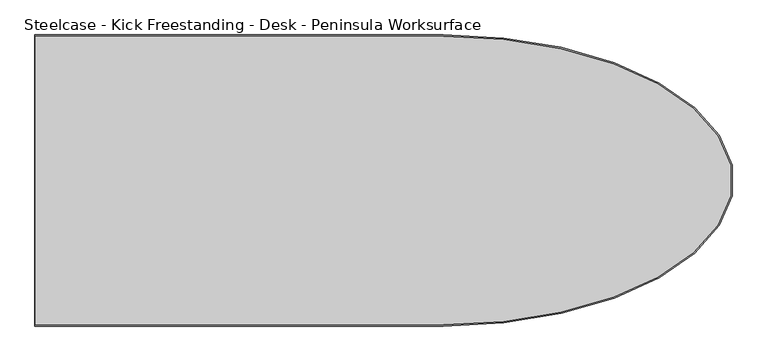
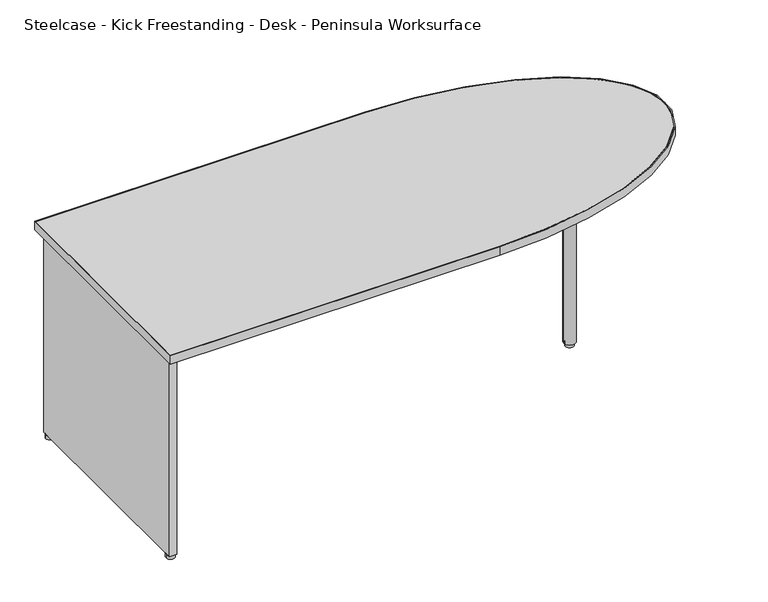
"""IFC4 building model written with IfcOpenShell, lengths in millimetres: furniture geometry, Steelcase - Kick Freestanding - Desk - Peninsula Worksurface : 30D x 72W."""

from ifc_helpers import new_model, si_unit, point, frame, frame_2d, origin, origin_with_axes, place, context, project, spatial, polyline, circle_curve, ellipse_curve, trimmed, segment, composite_curve, outline, extrude, source, transform, mapped, element, save
from ifc_brep_helpers import plane_surface, extruded_surface, advanced_brep


def steelcase_kick_freestanding_desk_peninsula_worksurface_1232d007(model_context):
    return source(origin(), model_context, "Body", "SolidModel", [
        advanced_brep(
        [(2163.8594425, -1308.8145152, 723.9), (3233.0978111, -1308.8145152, 723.9), (3233.0978111, -546.8145152, 723.9), (2163.8594425, -546.8145152, 723.9), (3233.0978111, -549.7863152, 723.9), (3233.0978111, -1305.8427489, 723.9), (2164.8500425, -1305.8427489, 723.9), (2164.8500425, -549.7863152, 723.9), (2163.8594425, -1308.8145152, 694.944), (2163.8594425, -546.8145152, 694.944), (3233.0978111, -546.8145152, 694.944), (3233.0978111, -1308.8145152, 694.944), (3233.0978111, -549.7863152, 694.944), (2164.8500425, -549.7863152, 694.944), (2164.8500425, -1305.8427489, 694.944), (3233.0978111, -1305.8427489, 694.944)],
        [
            (0, 1),
            (1, 2, ellipse_curve(frame((3233.0978111, -927.8145152, 723.9), z_axis=(0.0, 0.0, 1.0), x_axis=(-1.0, 0.0, 0.0)), 759.727071, 381.0)),
            (2, 3),
            (3, 0),
            (4, 5, ellipse_curve(frame((3233.0978111, -927.8145321, 723.9), z_axis=(0.0, 0.0, -1.0), x_axis=(1.0, 0.0, 0.0)), 755.65, 378.0282168)),
            (5, 6),
            (6, 7),
            (7, 4),
            (8, 9),
            (9, 10),
            (10, 11, ellipse_curve(frame((3233.0978111, -927.8145152, 694.944), z_axis=(0.0, 0.0, -1.0), x_axis=(0.0, 1.0, 0.0)), 381.0, 759.727071)),
            (11, 8),
            (12, 13),
            (13, 14),
            (14, 15),
            (15, 12, ellipse_curve(frame((3233.0978111, -927.8145321, 694.944), z_axis=(0.0, 0.0, 1.0), x_axis=(1.0, 0.0, 0.0)), 755.65, 378.0282168)),
            (0, 8),
            (11, 1),
            (10, 2),
            (9, 3),
            (4, 12),
            (15, 5),
            (14, 6),
            (13, 7),
        ],
        [
            plane_surface(frame((2163.8594425, -1308.8145152, 723.9), z_axis=(0.0, 0.0, 1.0), x_axis=(1.0, 0.0, 0.0))),
            plane_surface(frame((2163.8594425, -1308.8145152, 694.944), z_axis=(0.0, 0.0, -1.0), x_axis=(-1.0, 0.0, 0.0))),
            plane_surface(frame((2163.8594425, -1308.8145152, 723.9), z_axis=(0.0, -1.0, 0.0), x_axis=(0.0, 0.0, -1.0))),
            extruded_surface(trimmed(ellipse_curve(frame((3233.0978111, -927.8145152, 665.988), z_axis=(0.0, 0.0, 1.0), x_axis=(0.0, 1.0, 0.0)), 381.0, 759.727071), [point((3233.0978111, -1308.8145152, 665.988))], [point((3233.0978111, -546.8145152, 665.988))], True, "CARTESIAN"), (0.0, 0.0, 28.955999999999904), 28.955999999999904),
            plane_surface(frame((3233.0978111, -546.8145152, 723.9), z_axis=(0.0, 1.0, 0.0), x_axis=(0.0, 0.0, -1.0))),
            plane_surface(frame((2163.8594425, -546.8145152, 723.9), z_axis=(-1.0, 0.0, 0.0), x_axis=(0.0, 0.0, -1.0))),
            extruded_surface(trimmed(ellipse_curve(frame((3233.0978111, -927.8145321, -28.956), z_axis=(0.0, 0.0, -1.0), x_axis=(0.0, 1.0, 0.0)), 378.0282168, 755.65), [point((3233.0978111, -549.7863152, -28.956))], [point((3233.0978111, -1305.8427489, -28.956))], True, "CARTESIAN"), (0.0, 0.0, 28.956), 28.956),
            plane_surface(frame((3233.0978111, -1305.8427489, 723.9), z_axis=(0.0, 1.0, 0.0), x_axis=(0.0, 0.0, -1.0))),
            plane_surface(frame((2164.8500425, -1305.8427489, 723.9), z_axis=(1.0, 0.0, 0.0), x_axis=(0.0, 0.0, -1.0))),
            plane_surface(frame((2164.8500425, -549.7863152, 723.9), z_axis=(0.0, -1.0, 0.0), x_axis=(0.0, 0.0, -1.0))),
        ],
        [
            (0, [[1, 2, 3, 4], [5, 6, 7, 8]]),
            (1, [[9, 10, 11, 12], [13, 14, 15, 16]]),
            (2, [[-1, 17, -12, 18]]),
            (3, [[-2, -18, -11, 19]]),
            (4, [[-3, -19, -10, 20]]),
            (5, [[-4, -20, -9, -17]]),
            (6, [[-5, 21, -16, 22]]),
            (7, [[-6, -22, -15, 23]]),
            (8, [[-7, -23, -14, 24]]),
            (9, [[-8, -24, -13, -21]]),
        ],
    ),
        advanced_brep(
        [(3233.0978111, -549.7863152, 723.9), (2164.8500425, -549.7863152, 723.9), (2164.8500425, -1305.8427489, 723.9), (3233.0978111, -1305.8427489, 723.9), (3233.0978111, -549.7863152, 694.944), (3233.0978111, -1305.8427489, 694.944), (2164.8500425, -1305.8427489, 694.944), (2164.8500425, -549.7863152, 694.944)],
        [
            (0, 1),
            (1, 2),
            (2, 3),
            (3, 0, ellipse_curve(frame((3233.0978111, -927.8145321, 723.9), z_axis=(0.0, 0.0, 1.0), x_axis=(-1.0, 0.0, 0.0)), 755.65, 378.0282168)),
            (4, 5, ellipse_curve(frame((3233.0978111, -927.8145321, 694.944), z_axis=(0.0, 0.0, -1.0), x_axis=(0.0, 1.0, 0.0)), 378.0282168, 755.65)),
            (5, 6),
            (6, 7),
            (7, 4),
            (0, 4),
            (7, 1),
            (6, 2),
            (5, 3),
        ],
        [
            plane_surface(frame((2164.8500425, -549.7863152, 723.9), z_axis=(0.0, 0.0, 1.0), x_axis=(-1.0, 0.0, 0.0))),
            plane_surface(frame((2164.8500425, -549.7863152, 694.944), z_axis=(0.0, 0.0, -1.0), x_axis=(1.0, 0.0, 0.0))),
            plane_surface(frame((3233.0978111, -549.7863152, 723.9), z_axis=(0.0, 1.0, 0.0), x_axis=(0.0, 0.0, -1.0))),
            plane_surface(frame((2164.8500425, -549.7863152, 723.9), z_axis=(-1.0, 0.0, 0.0), x_axis=(0.0, 0.0, -1.0))),
            plane_surface(frame((2164.8500425, -1305.8427489, 723.9), z_axis=(0.0, -1.0, 0.0), x_axis=(0.0, 0.0, -1.0))),
            extruded_surface(trimmed(ellipse_curve(frame((3233.0978111, -927.8145321, 665.988), z_axis=(0.0, 0.0, 1.0), x_axis=(0.0, 1.0, 0.0)), 378.0282168, 755.65), [point((3233.0978111, -1305.8427489, 665.988))], [point((3233.0978111, -549.7863152, 665.988))], True, "CARTESIAN"), (0.0, 0.0, 28.955999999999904), 28.955999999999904),
        ],
        [
            (0, [[1, 2, 3, 4]]),
            (1, [[5, 6, 7, 8]]),
            (2, [[-1, 9, -8, 10]]),
            (3, [[-2, -10, -7, 11]]),
            (4, [[-3, -11, -6, 12]]),
            (5, [[-4, -12, -5, -9]]),
        ],
    ),
        extrude(outline(composite_curve([segment(trimmed(circle_curve(frame_2d((3679.9854425, -927.8063303)), 13.97), [point((3666.0154425, -927.8063303))], [point((3693.9554425, -927.8063303))], False, "CARTESIAN"), True, "CONTINUOUS"), segment(trimmed(circle_curve(frame_2d((3679.9854425, -927.8063303)), 13.97), [point((3693.9554425, -927.8063303))], [point((3666.0154425, -927.8063303))], False, "CARTESIAN"), True, "CONTINUOUS")], self_intersect=False)), origin_with_axes(), (0.0, 0.0, 1.0), 12.5222),
        extrude(outline(composite_curve([segment(trimmed(circle_curve(frame_2d((3679.9854425, -927.7998125)), 19.05), [point((3660.9354425, -927.7998125))], [point((3699.0354425, -927.7998125))], False, "CARTESIAN"), True, "CONTINUOUS"), segment(trimmed(circle_curve(frame_2d((3679.9854425, -927.7998125)), 19.05), [point((3699.0354425, -927.7998125))], [point((3660.9354425, -927.7998125))], False, "CARTESIAN"), True, "CONTINUOUS")], self_intersect=False)), frame((0.0, 0.0, 12.5222), z_axis=(0.0, 0.0, 1.0), x_axis=(1.0, 0.0, 0.0)), (0.0, 0.0, 1.0), 682.4218),
        extrude(outline(composite_curve([segment(trimmed(circle_curve(frame_2d((2188.6643434, -589.5500339)), 13.97), [point((2174.6943434, -589.5500339))], [point((2202.6343434, -589.5500339))], False, "CARTESIAN"), True, "CONTINUOUS"), segment(trimmed(circle_curve(frame_2d((2188.6643434, -589.5500339)), 13.97), [point((2202.6343434, -589.5500339))], [point((2174.6943434, -589.5500339))], False, "CARTESIAN"), True, "CONTINUOUS")], self_intersect=False)), origin_with_axes(), (0.0, 0.0, 1.0), 12.5222),
        extrude(outline(composite_curve([segment(trimmed(circle_curve(frame_2d((2188.6465467, -1265.8952821)), 13.97), [point((2174.6765467, -1265.8952821))], [point((2202.6165467, -1265.8952821))], False, "CARTESIAN"), True, "CONTINUOUS"), segment(trimmed(circle_curve(frame_2d((2188.6465467, -1265.8952821)), 13.97), [point((2202.6165467, -1265.8952821))], [point((2174.6765467, -1265.8952821))], False, "CARTESIAN"), True, "CONTINUOUS")], self_intersect=False)), origin_with_axes(), (0.0, 0.0, 1.0), 12.5222),
        extrude(outline(polyline([(2200.9434425, -574.3735161), (2200.9434425, -688.2671183), (2179.9630426, -688.2671183), (2179.9630426, -787.936716), (2200.9434425, -787.936716), (2200.9434425, -1067.6923144), (2179.9630426, -1067.6923144), (2179.9630426, -1167.3618848), (2200.9434425, -1167.3618848), (2200.9434425, -1281.2555142), (2176.5594429, -1281.2555142), (2176.5594429, -574.3735161), (2200.9434425, -574.3735161)])), frame((0.0, 0.0, 12.5222), z_axis=(0.0, 0.0, 1.0), x_axis=(1.0, 0.0, 0.0)), (0.0, 0.0, 1.0), 682.4218),
    ])


if __name__ == "__main__":
    model = new_model("IFC4")
    model_context = context("Model", 3, world=origin())
    ifc_project = project(units=[si_unit("LENGTHUNIT", "METRE", prefix="MILLI")], contexts=[model_context])
    site = spatial("IfcSite", under=ifc_project)
    building = spatial("IfcBuilding", under=site)
    placement = place(None, origin())
    steelcase_kick_freestanding_desk_peninsula_worksurface_shape = steelcase_kick_freestanding_desk_peninsula_worksurface_1232d007(model_context)
    element("IfcFurniture", 1, ObjectType="Steelcase - Kick Freestanding - Desk - Peninsula Worksurface : 30D x 72W", at=placement, inside=building, context=model_context, shape_type="MappedRepresentation", body=[
        mapped(steelcase_kick_freestanding_desk_peninsula_worksurface_shape, transform((0.0, 0.0, 0.0), x_axis=(1.0, 0.0, 0.0), y_axis=(0.0, 1.0, 0.0), z_axis=(0.0, 0.0, 1.0))),
    ])
    save(model, "model.ifc")
